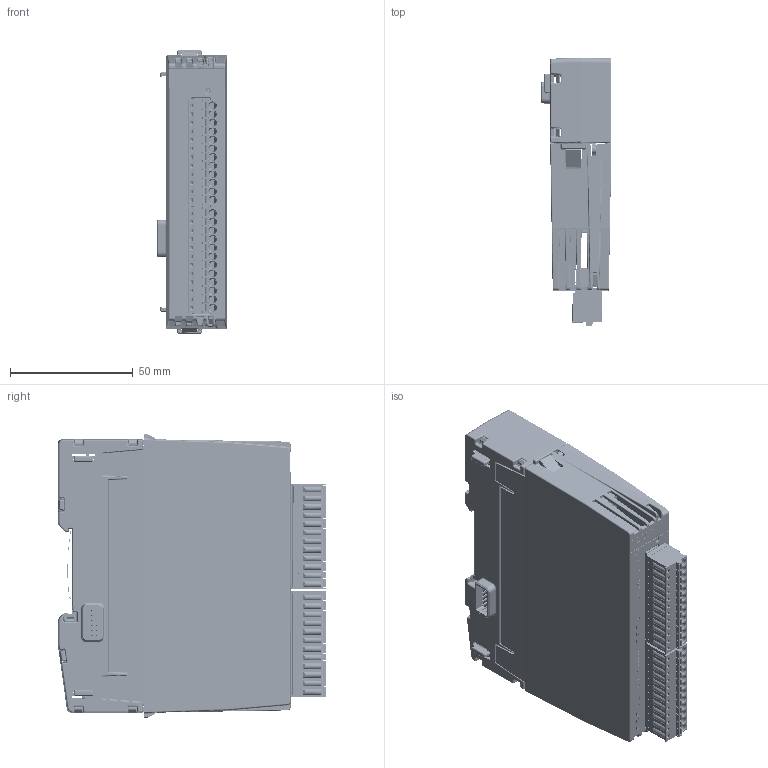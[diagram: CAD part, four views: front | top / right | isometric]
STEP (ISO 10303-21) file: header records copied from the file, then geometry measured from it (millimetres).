
FILE_DESCRIPTION(/* description */ (''),/* implementation_level */ '2;1');
FILE_NAME(/* name */ 'C:\Users\Public\Documents\Autodesk\Inventor 2023\DI20C_Simplified+BackBB21C.stp',/* time_stamp */ '2024-10-15T21:05:13+02:00',/* author */ ('shoma'),/* organization */ (''),/* preprocessor_version */ 'ST-DEVELOPER v19',/* originating_system */ 'Autodesk Inventor 2023',/* authorisation */ '');
FILE_SCHEMA (('AUTOMOTIVE_DESIGN { 1 0 10303 214 3 1 1 }'));
Products named in the file (1): DI20C_Simplified+BackBB21C
Bounding box: 28.9 x 109.39 x 115.5 mm (x, y, z)
Volume: 155200.9 mm3; surface area: 94769.5 mm2
Topology: 8 solids, 58 shells, 9464 faces, 25085 edges, 15796 vertices
Faces by surface type: plane 5726, cylinder 2404, bspline 898, cone 233, sphere 162, torus 41
Full cylindrical faces by diameter (mm): 0.296 x2, 0.3 x152, 0.457 x2, 0.7 x36, 0.8 x6, 0.85 x24, 0.9 x8, 1.17 x24, 1.2 x24, 1.25 x24, 1.3 x24, 1.4 x4, 1.6 x26, 2.35 x2, 2.5 x1, 3 x1, 3.1 x24, 3.25 x2
Entity records: 327028 total; most frequent: CARTESIAN_POINT 84199, ORIENTED_EDGE 49864, DIRECTION 46120, EDGE_CURVE 24932, LINE 17646, VECTOR 17646, VERTEX_POINT 15796, AXIS2_PLACEMENT_3D 14237
